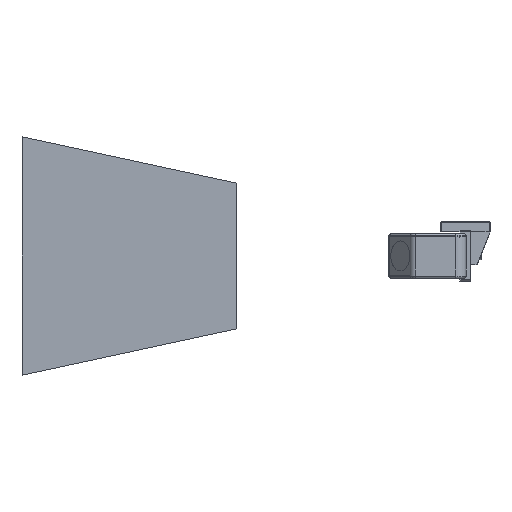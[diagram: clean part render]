
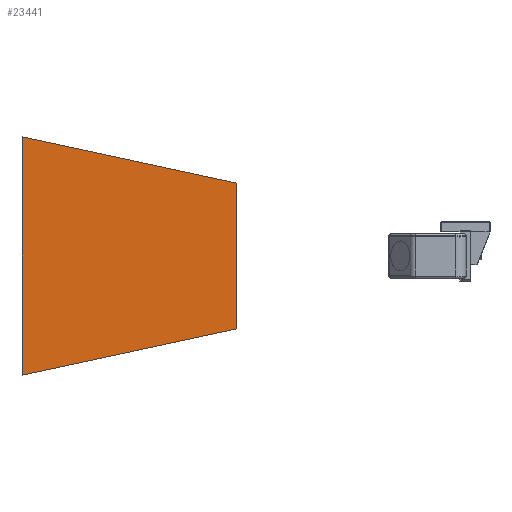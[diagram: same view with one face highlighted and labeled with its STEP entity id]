
A CAD part, front view. The second image highlights one B-rep face of the part: STEP entity #23441.
In plain terms, the highlighted planar face has unit normal (0, -1, 0) as drawn and (0, 0, 1) by its records, which use the part's own axes.
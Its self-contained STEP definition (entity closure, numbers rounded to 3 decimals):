
#488 = PLANE ( 'NONE',  #24568 ) ;
#2271 = VERTEX_POINT ( 'NONE', #23519 ) ;
#2623 = CARTESIAN_POINT ( 'NONE',  ( -139., 88.353, 0.2 ) ) ;
#2866 = EDGE_LOOP ( 'NONE', ( #41654, #18769, #5595, #28887 ) ) ;
#3693 = VECTOR ( 'NONE', #42203, 1000. ) ;
#4983 = CARTESIAN_POINT ( 'NONE',  ( -85., -161.647, 0.2 ) ) ;
#5595 = ORIENTED_EDGE ( 'NONE', *, *, #27552, .T. ) ;
#8629 = CARTESIAN_POINT ( 'NONE',  ( 0., 0., 0.2 ) ) ;
#9590 = VECTOR ( 'NONE', #26530, 1000. ) ;
#12906 = CARTESIAN_POINT ( 'NONE',  ( 139., 88.353, 0.2 ) ) ;
#14919 = LINE ( 'NONE', #4983, #9590 ) ;
#15043 = CARTESIAN_POINT ( 'NONE',  ( 139., 88.353, 0.2 ) ) ;
#16489 = VECTOR ( 'NONE', #40328, 1000. ) ;
#16771 = DIRECTION ( 'NONE',  ( 0., 0., -1. ) ) ;
#16860 = EDGE_CURVE ( 'NONE', #48258, #2271, #54116, .T. ) ;
#18203 = LINE ( 'NONE', #37938, #3693 ) ;
#18512 = EDGE_CURVE ( 'NONE', #28385, #54919, #18203, .T. ) ;
#18769 = ORIENTED_EDGE ( 'NONE', *, *, #16860, .T. ) ;
#23441 = ADVANCED_FACE ( 'NONE', ( #26832 ), #488, .F. ) ;
#23519 = CARTESIAN_POINT ( 'NONE',  ( 85., -161.647, 0.2 ) ) ;
#23536 = VECTOR ( 'NONE', #52152, 1000. ) ;
#24568 = AXIS2_PLACEMENT_3D ( 'NONE', #8629, #16771, #38370 ) ;
#26530 = DIRECTION ( 'NONE',  ( 0.211, -0.977, 0. ) ) ;
#26832 = FACE_OUTER_BOUND ( 'NONE', #2866, .T. ) ;
#27552 = EDGE_CURVE ( 'NONE', #2271, #28385, #53229, .T. ) ;
#28385 = VERTEX_POINT ( 'NONE', #12906 ) ;
#28887 = ORIENTED_EDGE ( 'NONE', *, *, #18512, .T. ) ;
#29964 = CARTESIAN_POINT ( 'NONE',  ( -85., -161.647, 0.2 ) ) ;
#36530 = EDGE_CURVE ( 'NONE', #54919, #48258, #14919, .T. ) ;
#37938 = CARTESIAN_POINT ( 'NONE',  ( -139., 88.353, 0.2 ) ) ;
#38370 = DIRECTION ( 'NONE',  ( -1., 0., 0. ) ) ;
#40328 = DIRECTION ( 'NONE',  ( 0.211, 0.977, 0. ) ) ;
#41654 = ORIENTED_EDGE ( 'NONE', *, *, #36530, .T. ) ;
#42203 = DIRECTION ( 'NONE',  ( -1., 0., 0. ) ) ;
#48258 = VERTEX_POINT ( 'NONE', #29964 ) ;
#48601 = CARTESIAN_POINT ( 'NONE',  ( 85., -161.647, 0.2 ) ) ;
#52152 = DIRECTION ( 'NONE',  ( 1., 0., 0. ) ) ;
#53229 = LINE ( 'NONE', #15043, #16489 ) ;
#54116 = LINE ( 'NONE', #48601, #23536 ) ;
#54919 = VERTEX_POINT ( 'NONE', #2623 ) ;
